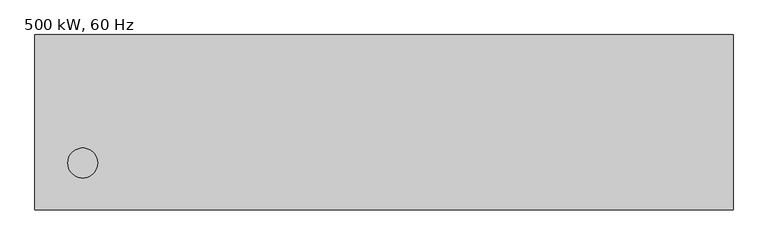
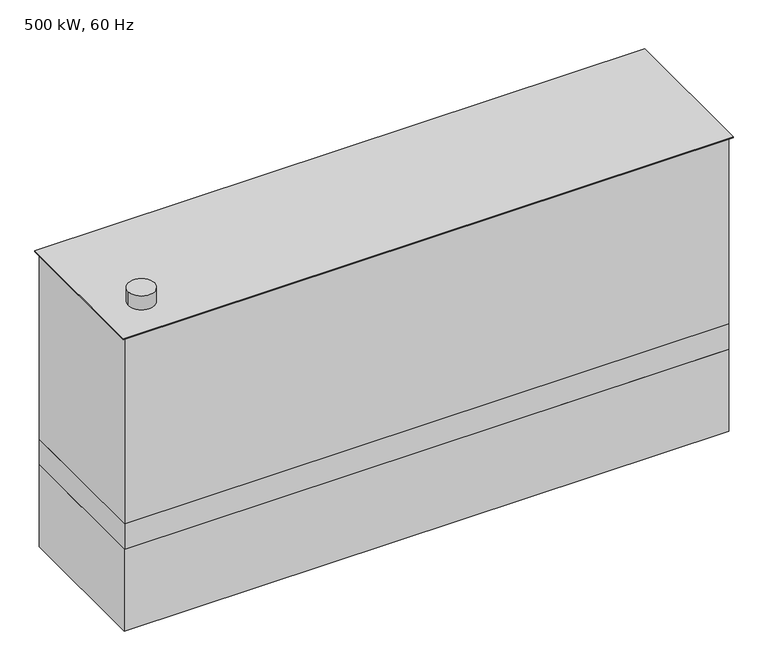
"""IFC4 building model written with IfcOpenShell, lengths in millimetres: proxy geometry, Generator_Diesel-500_kW-Kohler-John_Deere : 500 kW, 60 Hz."""

from ifc_helpers import new_model, si_unit, point, frame, frame_2d, origin, origin_with_axes, place, context, project, spatial, polyline, circle_curve, trimmed, segment, composite_curve, outline, extrude, source, transform, mapped, element, save


def proxy_500_kw_60_hz_de3ac420(model_context):
    return source(origin(), model_context, "Body", "SweptSolid", [
        extrude(outline(polyline([(-3150.362, -740.41), (-3150.362, 740.41), (2747.518, 740.41), (2747.518, -740.41), (-3150.362, -740.41)])), frame((0.0, 0.0, 3007.36), z_axis=(0.0, 0.0, 1.0), x_axis=(1.0, 0.0, 0.0)), (0.0, 0.0, 1.0), 12.7),
        extrude(outline(polyline([(-3122.422, -712.47), (-3122.422, 712.47), (2719.578, 712.47), (2719.578, -712.47), (-3122.422, -712.47)])), frame((0.0, 0.0, 1097.28), z_axis=(0.0, 0.0, 1.0), x_axis=(1.0, 0.0, 0.0)), (0.0, 0.0, 1.0), 1910.08),
        extrude(outline(polyline([(2719.578, 712.47), (2719.578, -712.47), (-3122.422, -712.47), (-3122.422, 712.47), (2719.578, 712.47)]), holes=[polyline([(2643.378, 623.57), (-3046.222, 623.57), (-3046.222, -623.57), (2643.378, -623.57), (2643.378, 623.57)])]), frame((0.0, 0.0, 838.2), z_axis=(0.0, 0.0, 1.0), x_axis=(1.0, 0.0, 0.0)), (0.0, 0.0, 1.0), 259.08),
        extrude(outline(composite_curve([segment(trimmed(circle_curve(frame_2d((-2746.502, -344.17)), 127.0), [point((-2873.502, -344.17))], [point((-2619.502, -344.17))], False, "CARTESIAN"), True, "CONTINUOUS"), segment(trimmed(circle_curve(frame_2d((-2746.502, -344.17)), 127.0), [point((-2619.502, -344.17))], [point((-2873.502, -344.17))], False, "CARTESIAN"), True, "CONTINUOUS")], self_intersect=False)), frame((0.0, 0.0, 3020.06), z_axis=(0.0, 0.0, 1.0), x_axis=(1.0, 0.0, 0.0)), (0.0, 0.0, 1.0), 142.24),
        extrude(outline(polyline([(2719.578, 712.47), (2719.578, -712.47), (-3124.962, -712.47), (-3124.962, 712.47), (2719.578, 712.47)])), origin_with_axes(), (0.0, 0.0, 1.0), 838.2),
    ])


if __name__ == "__main__":
    model = new_model("IFC4")
    model_context = context("Model", 3, world=origin())
    ifc_project = project(units=[si_unit("LENGTHUNIT", "METRE", prefix="MILLI")], contexts=[model_context])
    site = spatial("IfcSite", under=ifc_project)
    building = spatial("IfcBuilding", under=site)
    placement = place(None, origin())
    proxy_500_kw_60_hz_shape = proxy_500_kw_60_hz_de3ac420(model_context)
    element("IfcBuildingElementProxy", 1, Name="Generator_Diesel-500_kW-Kohler-John_Deere : 500 kW, 60 Hz", ObjectType="Generator_Diesel-500_kW-Kohler-John_Deere : 500 kW, 60 Hz", at=placement, inside=building, context=model_context, shape_type="MappedRepresentation", body=[
        mapped(proxy_500_kw_60_hz_shape, transform((0.0, 0.0, 0.0), x_axis=(1.0, 0.0, 0.0), y_axis=(0.0, 1.0, 0.0), z_axis=(0.0, 0.0, 1.0))),
    ])
    save(model, "model.ifc")
